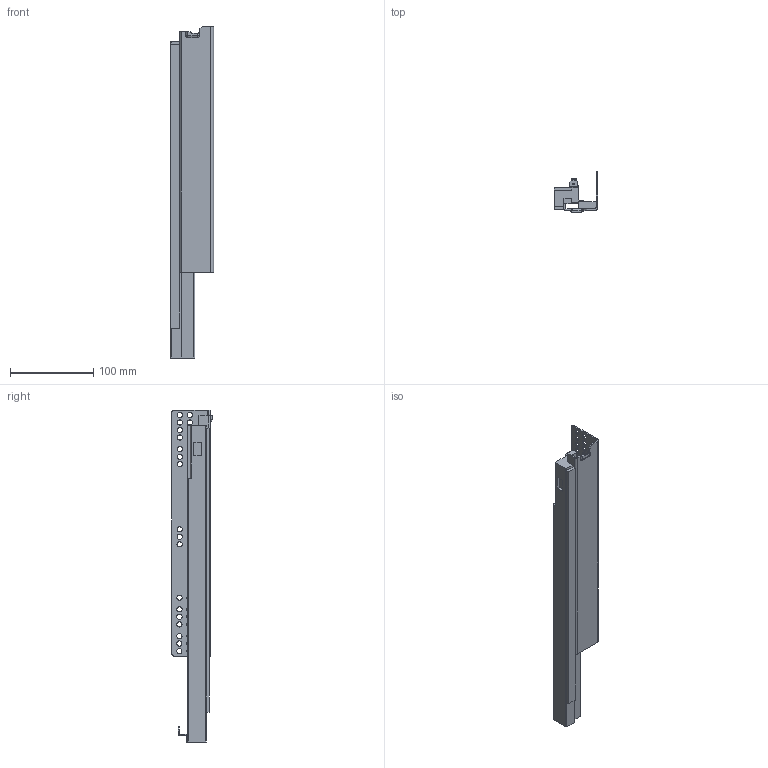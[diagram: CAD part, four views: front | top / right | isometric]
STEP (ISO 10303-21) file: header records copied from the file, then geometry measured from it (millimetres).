
FILE_DESCRIPTION (( 'STEP AP203' ), '1' );
FILE_NAME ('TS10400H-R-DTC3D-close.STEP', '2021-07-09T03:24:03', ( 'df' ), ( 'Microsoft' ), 'SwSTEP 2.0', 'SolidWorks 2018', '' );
FILE_SCHEMA (( 'CONFIG_CONTROL_DESIGN' ));
Length unit declared in the file: millimetre
Products named in the file (1): TS10400H-R-DTC3D-close
Bounding box: 51.73 x 48 x 398 mm (x, y, z)
Volume: 314456.7 mm3; surface area: 91744.8 mm2
Topology: 1 solids, 1 shells, 297 faces, 843 edges, 552 vertices
Faces by surface type: cylinder 117, plane 114, bspline 47, torus 15, sphere 4
Entity records: 11513 total; most frequent: CARTESIAN_POINT 3728, ORIENTED_EDGE 1678, DIRECTION 1488, EDGE_CURVE 839, VERTEX_POINT 552, AXIS2_PLACEMENT_3D 514, VECTOR 460, LINE 460
